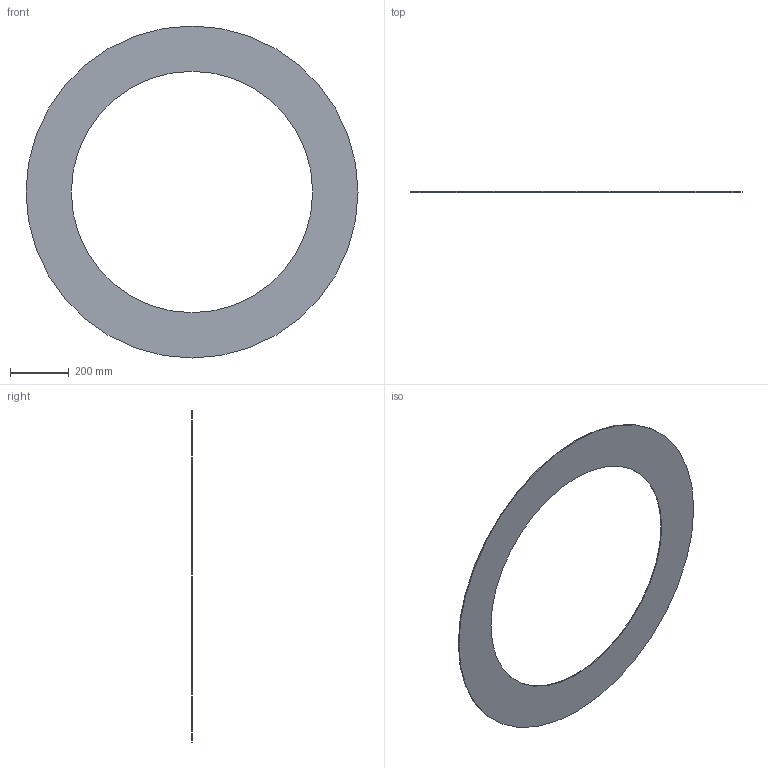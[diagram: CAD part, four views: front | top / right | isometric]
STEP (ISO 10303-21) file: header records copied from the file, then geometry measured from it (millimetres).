
FILE_DESCRIPTION(/* description */ ('Unknown'),/* implementation_level */ '2;1');
FILE_NAME(/* name */ 'GUA.1000C',/* time_stamp */ '2021-04-01T14:47:18+02:00',/* author */ ('Unknown'),/* organization */ ('Unknown'),/* preprocessor_version */ 'ST-DEVELOPER v16.7',/* originating_system */ 'Solid Edge',/* authorisation */ 'Unknown');
FILE_SCHEMA (('AUTOMOTIVE_DESIGN {1 0 10303 214 3 1 1}'));
Length unit declared in the file: millimetre
Products named in the file (1): GUA.1000C
Bounding box: 1128 x 3 x 1128 mm (x, y, z)
Volume: 1413679 mm3; surface area: 960812.1 mm2
Topology: 1 solids, 1 shells, 4 faces, 6 edges, 4 vertices
Faces by surface type: cylinder 2, plane 2
Full cylindrical faces by diameter (mm): 820 x1, 1128 x1
Entity records: 118 total; most frequent: DIRECTION 18, CARTESIAN_POINT 13, AXIS2_PLACEMENT_3D 9, ORIENTED_EDGE 8, EDGE_LOOP 8, FACE_BOUND 8, EDGE_CURVE 4, VERTEX_POINT 4
